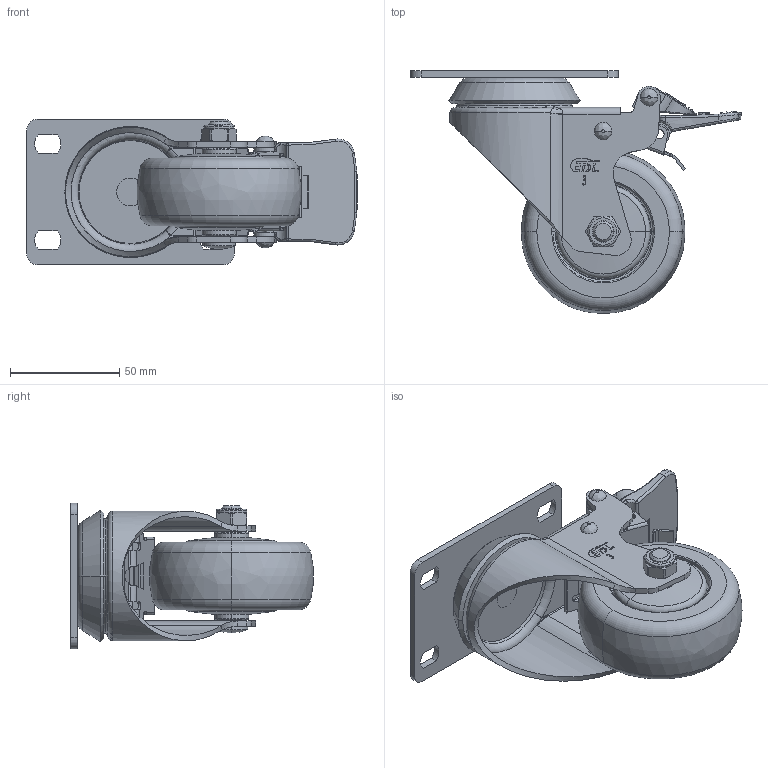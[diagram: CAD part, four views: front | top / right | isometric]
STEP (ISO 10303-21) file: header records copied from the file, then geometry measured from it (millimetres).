
FILE_DESCRIPTION((''),'2;1');
FILE_NAME('57223H-573-77_ASM','2021-01-05T',('lenovo'),(''),'PRO/ENGINEER BY PARAMETRIC TECHNOLOGY CORPORATION, 2010280','PRO/ENGINEER BY PARAMETRIC TECHNOLOGY CORPORATION, 2010280','');
FILE_SCHEMA(('CONFIG_CONTROL_DESIGN'));
Length unit declared in the file: millimetre
Products named in the file (10): 5710-201; 5723-321; 5720-211; 573-77; 5710-020; 5710-031; 570-64OFF; 5734-401; 571-64ON; 57223H-573-77_ASM
Assembly tree (9 placements, depth 2):
  57223H-573-77_ASM
    5710-201
    5723-321
    5720-211
    573-77
    5710-020
    5710-031
    570-64OFF
    5734-401
    571-64ON
Bounding box: 151.21 x 110.85 x 66.5 mm (x, y, z)
Volume: 229291.8 mm3; surface area: 81363.1 mm2
Topology: 9 solids, 9 shells, 836 faces, 2192 edges, 1391 vertices
Faces by surface type: plane 439, cylinder 203, bspline 76, cone 60, torus 50, sphere 8
Entity records: 29124 total; most frequent: CARTESIAN_POINT 8685, ORIENTED_EDGE 4372, DIRECTION 4050, EDGE_CURVE 2186, AXIS2_PLACEMENT_3D 1391, VERTEX_POINT 1389, VECTOR 1268, LINE 1268
